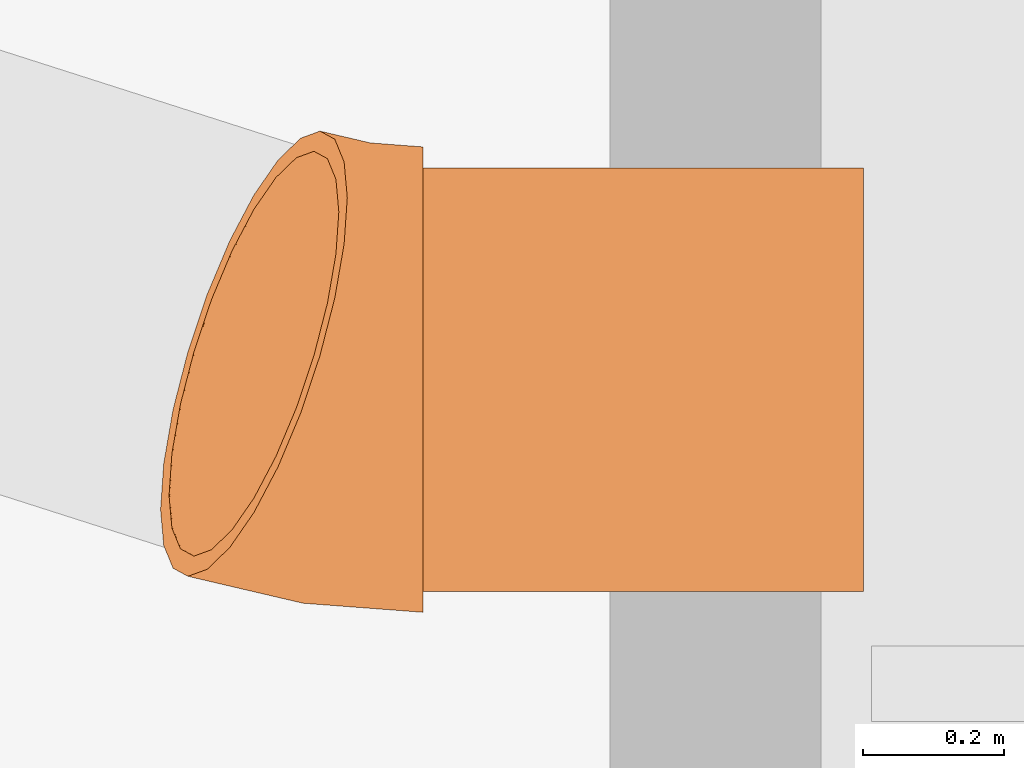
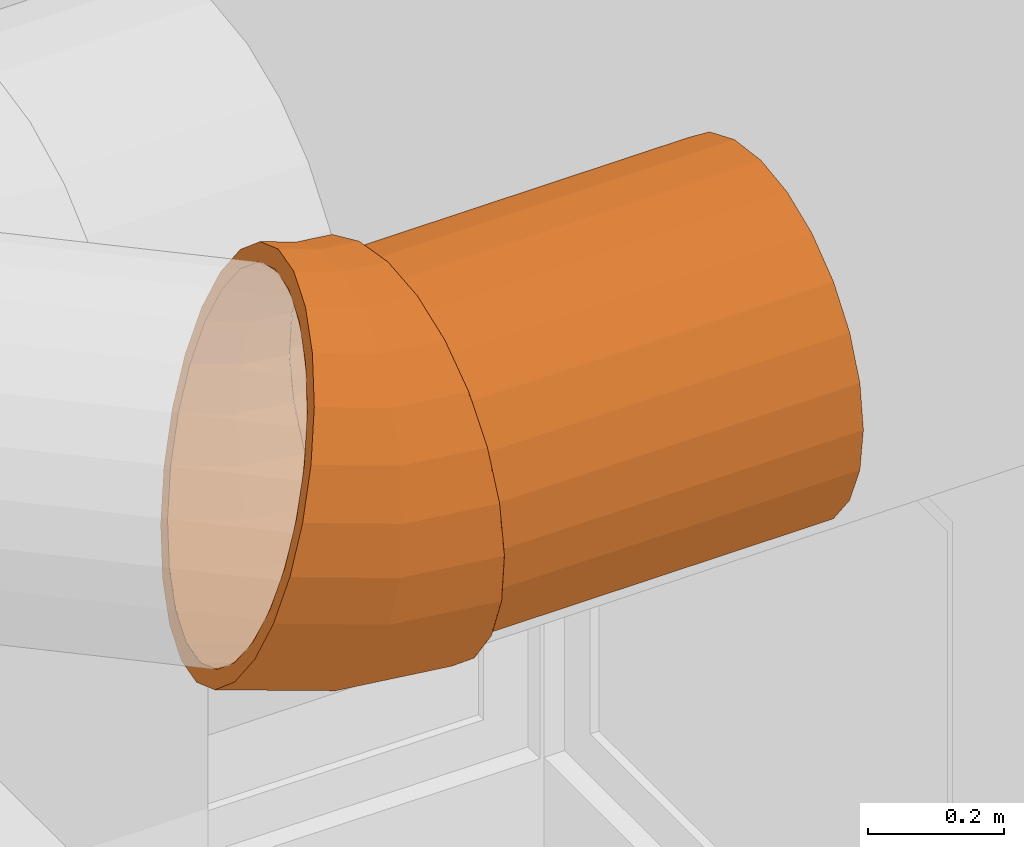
# One storey, part 293 of 301: 2 proxies.
"""IFC2X3 building model written with IfcOpenShell, lengths in millimetres."""

from ifc_helpers import new_model, entity, si_unit, converted_unit, derived_unit, money_unit, direction, frame, origin_with_axes, place, context, subcontext, project, spatial, open_shell, faceted_brep, surface_model, type_object, element, save


model = new_model("IFC2X3")

# Units and contexts
model_context = context("Model", 3, precision=0.01, world=origin_with_axes(), true_north=direction((0.0, 1.0)))
body_context = subcontext(model_context, "Body", "Model", "MODEL_VIEW")
ifc_project = project(units=[si_unit("LENGTHUNIT", "METRE", prefix="MILLI"), si_unit("AREAUNIT", "SQUARE_METRE"), si_unit("VOLUMEUNIT", "CUBIC_METRE"), converted_unit("PLANEANGLEUNIT", "DEGREE", entity("IfcPlaneAngleMeasure", 0.0174532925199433), si_unit("PLANEANGLEUNIT", "RADIAN"), dimensions=[0, 0, 0, 0, 0, 0, 0]), money_unit("EUR"), converted_unit("TIMEUNIT", "Year", entity("IfcTimeMeasure", 31557600.0), si_unit("TIMEUNIT", "SECOND"), dimensions=[0, 0, 1, 0, 0, 0, 0]), si_unit("MASSUNIT", "GRAM", prefix="KILO"), si_unit("THERMODYNAMICTEMPERATUREUNIT", "DEGREE_CELSIUS"), si_unit("LUMINOUSINTENSITYUNIT", "LUMEN"), si_unit("ENERGYUNIT", "JOULE", prefix="MEGA"), derived_unit("THERMALCONDUCTANCEUNIT", [(si_unit("POWERUNIT", "WATT"), 1), (si_unit("LENGTHUNIT", "METRE"), -1), (si_unit("THERMODYNAMICTEMPERATUREUNIT", "KELVIN"), -1)]), derived_unit("SPECIFICHEATCAPACITYUNIT", [(si_unit("ENERGYUNIT", "JOULE"), 1), (si_unit("MASSUNIT", "GRAM", prefix="KILO"), -1), (si_unit("THERMODYNAMICTEMPERATUREUNIT", "KELVIN"), -1)]), derived_unit("MASSDENSITYUNIT", [(si_unit("MASSUNIT", "GRAM", prefix="KILO"), 1), (si_unit("VOLUMEUNIT", "CUBIC_METRE"), -1)])], contexts=[model_context])

# Site, building, storey
site_placement = place(None, frame((0.0, 0.0, 8650.0), z_axis=(0.0, 0.0, 1.0), x_axis=(1.0, 0.0, 0.0)))
site = spatial("IfcSite", under=ifc_project, at=site_placement, Name="43301:001:0844", CompositionType="ELEMENT")
building_placement = place(site_placement, origin_with_axes())
building = spatial("IfcBuilding", under=site, at=building_placement, Name="Kuressaare Ametikooli tuulikute mehaanikute õppekorpus", CompositionType="ELEMENT")
storey_placement = place(building_placement, origin_with_axes())
storey = spatial("IfcBuildingStorey", under=building, at=storey_placement, Name="1.korrus", CompositionType="ELEMENT", Elevation=0.0)

# Proxies
building_element_proxy_type = type_object("IfcBuildingElementProxyType", Name="IfcBuildingElementProxy", PredefinedType="NOTDEFINED")
proxy_1_placement = place(storey_placement, frame((87632.88421849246, 47523.47946166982, 5167.550563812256), z_axis=(1.0, 0.0, 0.0), x_axis=(0.0, 1.0, 0.0)))
element("IfcBuildingElementProxy", 1, at=proxy_1_placement, inside=storey, type_object=building_element_proxy_type, context=body_context, shape_type="SurfaceModel", body=[
    surface_model("IfcShellBasedSurfaceModel", [(0.0, -301.0000000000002, 0.0), (77.90453257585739, -290.7436737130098, 0.0), (77.90453257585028, -290.7436737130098, 625.8722283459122), (0.0, -301.0000000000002, 625.8722283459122), (150.500000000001, -260.6736465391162, 0.0), (150.4999999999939, -260.6736465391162, 625.8722283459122), (-77.90453257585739, -290.7436737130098, 0.0), (-77.9045325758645, -290.7436737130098, 625.8722283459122), (212.8391411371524, -212.8391411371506, 0.0), (212.8391411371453, -212.8391411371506, 625.8722283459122), (-150.500000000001, -260.6736465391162, 0.0), (-150.5000000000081, -260.6736465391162, 625.8722283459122), (260.673646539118, -150.5000000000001, 0.0), (260.6736465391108, -150.5000000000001, 625.8722283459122), (-212.8391411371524, -212.8391411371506, 0.0), (-212.8391411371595, -212.8391411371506, 625.8722283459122), (290.7436737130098, -77.90453257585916, 0.0), (290.7436737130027, -77.90453257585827, 625.8722283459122), (-260.673646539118, -150.5000000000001, 0.0), (-260.6736465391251, -150.5000000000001, 625.8722283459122), (301.0000000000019, 0.0, 0.0), (300.9999999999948, 0.0, 625.8722283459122), (-290.7436737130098, -77.90453257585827, 0.0), (-290.7436737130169, -77.90453257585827, 625.8722283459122), (290.7436737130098, 77.90453257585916, 0.0), (290.7436737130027, 77.90453257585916, 625.8722283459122), (-301.0000000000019, 0.0, 0.0), (-301.000000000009, 0.0, 625.8722283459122), (260.673646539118, 150.5000000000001, 0.0), (260.6736465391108, 150.5000000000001, 625.8722283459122), (-290.7436737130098, 77.90453257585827, 0.0), (-290.7436737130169, 77.90453257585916, 625.8722283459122), (212.8391411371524, 212.8391411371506, 0.0), (212.8391411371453, 212.8391411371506, 625.8722283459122), (-260.673646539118, 150.5000000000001, 0.0), (-260.6736465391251, 150.5000000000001, 625.8722283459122), (150.500000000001, 260.6736465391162, 0.0), (150.4999999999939, 260.6736465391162, 625.8722283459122), (-212.8391411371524, 212.8391411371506, 0.0), (-212.8391411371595, 212.8391411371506, 625.8722283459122), (77.90453257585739, 290.7436737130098, 0.0), (77.90453257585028, 290.7436737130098, 625.8722283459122), (-150.500000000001, 260.6736465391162, 0.0), (-150.5000000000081, 260.6736465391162, 625.8722283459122), (0.0, 301.0000000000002, 0.0), (0.0, 301.0000000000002, 625.8722283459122), (-77.90453257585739, 290.7436737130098, 0.0), (-77.9045325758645, 290.7436737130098, 625.8722283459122)], [open_shell([[[0, 1, 2, 3]], [[1, 4, 5, 2]], [[6, 0, 3, 7]], [[4, 8, 9, 5]], [[10, 6, 7, 11]], [[8, 12, 13, 9]], [[14, 10, 11, 15]], [[12, 16, 17, 13]], [[18, 14, 15, 19]], [[16, 20, 21, 17]], [[22, 18, 19, 23]], [[20, 24, 25, 21]], [[26, 22, 23, 27]], [[24, 28, 29, 25]], [[30, 26, 27, 31]], [[28, 32, 33, 29]], [[34, 30, 31, 35]], [[32, 36, 37, 33]], [[38, 34, 35, 39]], [[36, 40, 41, 37]], [[42, 38, 39, 43]], [[40, 44, 45, 41]], [[46, 42, 43, 47]], [[44, 46, 47, 45]]])]),
])
proxy_2_placement = place(storey_placement, frame((87392.30670792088, 47560.29862101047, 5201.884217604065), z_axis=(1.0, 0.0, 0.0), x_axis=(0.0, 1.0, 0.0)))
element("IfcBuildingElementProxy", 2, at=proxy_2_placement, inside=storey, type_object=building_element_proxy_type, context=body_context, shape_type="SurfaceModel", body=[
    surface_model("IfcShellBasedSurfaceModel", [(141.4430850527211, 238.4147601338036, 117.5349131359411), (127.4846175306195, 225.3985696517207, 177.2344689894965), (187.9567943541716, 175.2686270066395, 179.3352082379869), (201.4449110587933, 187.8462180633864, 121.647315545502), (71.78688828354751, 272.7215020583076, 105.4779593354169), (56.44942193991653, 258.4194031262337, 171.0754131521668), (122.7650887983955, 220.9976363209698, 239.5775105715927), (183.3962969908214, 171.0159895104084, 239.5775105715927), (233.7448734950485, 111.4458479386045, 177.2344689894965), (247.7033410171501, 124.4620384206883, 117.5349131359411), (-2.776724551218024, 288.4284960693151, 86.29811562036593), (-20.30786122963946, 272.0808121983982, 161.2777702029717), (51.26363682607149, 253.5836884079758, 239.5775105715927), (229.0253447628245, 107.0449146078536, 239.5775105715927), (261.728473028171, 38.27964936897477, 171.0754131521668), (277.065939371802, 52.58174830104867, 105.4779593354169), (-77.16636645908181, 284.4653364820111, 61.3024566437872), (-97.55634997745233, 265.4517944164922, 148.5092333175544), (-26.23535313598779, 266.5534601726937, 239.5775105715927), (256.542687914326, 33.44393465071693, 239.5775105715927), (270.0005568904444, -39.24381318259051, 161.2777702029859), (287.531693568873, -22.89612931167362, 86.29811562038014), (-146.3125062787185, 261.1021060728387, 32.19439525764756), (-170.0316874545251, 238.9841063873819, 133.6399571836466), (-104.4504529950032, 259.0230831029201, 239.5775105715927), (264.0730649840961, -44.77116520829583, 239.5775105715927), (257.9973962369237, -115.8414438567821, 148.5092333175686), (278.3873797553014, -96.82790179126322, 61.30245664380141), (-205.5029488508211, 219.9309703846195, 0.9575977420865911), (-232.7947991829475, 194.4814773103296, 117.6832583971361), (-178.0514329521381, 231.5057399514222, 239.5775105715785), (251.10329321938, -122.2701551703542, 239.5775105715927), (226.5369866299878, -186.2932407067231, 133.6399571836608), (250.2561678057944, -164.1752410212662, 32.19439525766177), (-250.7039633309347, 163.7576742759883, -30.27919977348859), (-281.568482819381, 134.9766878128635, 101.7265596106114), (-242.022507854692, 185.8766921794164, 239.5775105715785), (218.5172411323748, -193.7716071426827, 239.5775105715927), (177.7633029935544, -245.7980302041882, 117.6832583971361), (205.0551533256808, -220.3485371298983, 0.9575977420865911), (-278.8351752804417, 96.41033504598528, -59.38726115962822), (-313.028892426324, 64.52489096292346, 86.85728347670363), (-292.0041546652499, 125.2454839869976, 239.5775105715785), (168.535594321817, -254.4028153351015, 239.5775105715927), (115.0001912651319, -290.3006592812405, 101.7265596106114), (145.8647107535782, -261.5196728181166, -30.27919977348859), (-287.9794890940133, 22.47856256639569, -84.38292013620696), (-325.0320530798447, -12.0727397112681, 74.08874659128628), (-324.590206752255, 53.74403201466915, 239.5775105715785), (104.564519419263, -300.0318631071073, 239.5775105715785), (42.52485378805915, -316.7683473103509, 86.85728347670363), (76.71857093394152, -284.882903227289, -59.38726115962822), (-277.5137348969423, -52.9993150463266, -103.562763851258), (-316.7599692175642, -89.59620226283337, 64.29110364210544), (-337.5599785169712, -23.75495794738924, 239.5775105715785), (30.96353946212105, -327.5492062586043, 239.5775105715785), (-34.72363495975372, -323.3973650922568, 74.08874659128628), (2.328929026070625, -288.846062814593, -84.38292013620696), (-248.1511365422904, -124.8796051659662, -115.6197176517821), (-288.7763696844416, -162.762400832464, 58.13204780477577), (-330.0296014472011, -101.9700578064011, 239.5775105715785), (-47.25156039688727, -335.0795833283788, 239.5775105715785), (-111.4809181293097, -309.7359560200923, 64.29110364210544), (-72.23468380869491, -273.1390688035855, -103.562763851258), (-201.8927065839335, -188.2637848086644, -119.732120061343), (-242.9882905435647, -226.5851799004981, 56.03130855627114), (-302.5122582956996, -175.5710377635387, 239.5775105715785), (-124.7505503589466, -322.1098115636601, 239.5775105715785), (-182.5161137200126, -276.7151225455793, 58.13204780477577), (-141.8908805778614, -238.8323268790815, -115.6197176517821), (-256.8832105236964, -239.5421126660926, 239.5775105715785), (-196.2520023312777, -289.523759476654, 239.5775105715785)], [open_shell([[[0, 1, 2, 3]], [[4, 5, 1, 0]], [[2, 1, 6, 7]], [[3, 2, 8, 9]], [[10, 11, 5, 4]], [[1, 5, 12, 6]], [[8, 2, 7, 13]], [[9, 8, 14, 15]], [[16, 17, 11, 10]], [[5, 11, 18, 12]], [[14, 8, 13, 19]], [[15, 14, 20, 21]], [[22, 23, 17, 16]], [[11, 17, 24, 18]], [[20, 14, 19, 25]], [[21, 20, 26, 27]], [[28, 29, 23, 22]], [[17, 23, 30, 24]], [[26, 20, 25, 31]], [[27, 26, 32, 33]], [[34, 35, 29, 28]], [[23, 29, 36, 30]], [[32, 26, 31, 37]], [[33, 32, 38, 39]], [[40, 41, 35, 34]], [[29, 35, 42, 36]], [[38, 32, 37, 43]], [[39, 38, 44, 45]], [[46, 47, 41, 40]], [[35, 41, 48, 42]], [[44, 38, 43, 49]], [[45, 44, 50, 51]], [[52, 53, 47, 46]], [[41, 47, 54, 48]], [[50, 44, 49, 55]], [[51, 50, 56, 57]], [[58, 59, 53, 52]], [[47, 53, 60, 54]], [[56, 50, 55, 61]], [[57, 56, 62, 63]], [[64, 65, 59, 58]], [[53, 59, 66, 60]], [[62, 56, 61, 67]], [[63, 62, 68, 69]], [[69, 68, 65, 64]], [[59, 65, 70, 66]], [[68, 62, 67, 71]], [[65, 68, 71, 70]]])]),
    faceted_brep([(225.738757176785, -242.0805930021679, 0.0), (275.4448561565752, -180.3086295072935, 34.35009959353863), (275.1516076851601, -180.5820820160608, 35.26619405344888), (225.4455087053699, -242.3540455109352, 0.916094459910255), (160.6489349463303, -287.3551641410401, -34.35009959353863), (84.61115328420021, -313.0469557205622, -66.35929666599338), (2.807261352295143, -317.4051146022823, -93.84621733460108), (-79.18794080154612, -300.1326394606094, -114.9376733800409), (-155.78661565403, -262.4066209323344, -128.1963169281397), (-221.7686900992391, -206.7980248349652, -132.718593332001), (-272.637594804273, -137.0964850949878, -128.1963169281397), (-304.9266979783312, -58.05204645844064, -114.9376733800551), (-316.4355506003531, 24.94854320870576, -93.84621733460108), (-306.3798433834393, 106.2489308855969, -66.3592966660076), (-275.4448561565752, 180.3086295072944, -34.35009959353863), (-225.738757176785, 242.0805930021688, 0.0), (-160.6489349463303, 287.3551641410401, 34.35009959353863), (-84.61115328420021, 313.0469557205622, 66.35929666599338), (-2.807261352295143, 317.4051146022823, 93.84621733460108), (79.18794080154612, 300.1326394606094, 114.9376733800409), (155.7866156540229, 262.4066209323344, 128.1963169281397), (221.7686900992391, 206.7980248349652, 132.718593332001), (272.637594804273, 137.0964850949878, 128.1963169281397), (304.9266979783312, 58.05204645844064, 114.9376733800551), (316.4355506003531, -24.94854320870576, 93.84621733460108), (306.3798433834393, -106.2489308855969, 66.3592966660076), (205.2790510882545, -220.1397537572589, 0.0), (250.480065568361, -163.9664576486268, 31.23679751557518), (278.611277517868, -96.6191184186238, 60.34485890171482), (287.7555913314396, -22.6873459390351, 85.34051787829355), (277.2898371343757, 52.79053167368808, 104.5203615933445), (247.9272387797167, 124.6708217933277, 116.5773153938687), (201.6688088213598, 188.0550014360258, 120.6897178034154), (141.6669828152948, 238.623543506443, 116.5773153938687), (72.01078604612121, 272.930285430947, 104.5203615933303), (-2.552826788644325, 288.6372794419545, 85.34051787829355), (-76.94246869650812, 284.6741198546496, 60.34485890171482), (-146.0886085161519, 261.3108894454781, 31.23679751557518), (-205.2790510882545, 220.1397537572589, 0.0), (-250.480065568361, 163.9664576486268, -31.23679751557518), (-278.611277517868, 96.6191184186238, -60.34485890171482), (-287.7555913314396, 22.6873459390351, -85.34051787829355), (-277.2898371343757, -52.79053167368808, -104.5203615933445), (-247.9272387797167, -124.6708217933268, -116.5773153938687), (-201.6688088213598, -188.0550014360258, -120.6897178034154), (-141.6669828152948, -238.623543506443, -116.5773153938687), (-72.01078604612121, -272.930285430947, -104.5203615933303), (2.552826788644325, -288.6372794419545, -85.34051787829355), (76.94246869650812, -284.6741198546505, -60.34485890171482), (146.0886085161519, -261.3108894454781, -31.23679751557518), (306.0865949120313, -106.5223833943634, 67.27539112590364), (316.1423021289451, -25.22199571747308, 94.76231179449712), (304.6334495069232, 57.77859394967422, 115.8537678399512), (272.344346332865, 136.8230325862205, 129.1124113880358), (221.4754416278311, 206.5245723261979, 133.634687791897), (155.4933671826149, 262.133168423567, 129.1124113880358), (78.89469233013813, 299.8591869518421, 115.8537678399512), (-3.10050982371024, 317.1316620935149, 94.76231179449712), (-84.90440175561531, 312.7735032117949, 67.27539112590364), (-160.9421834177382, 287.0817116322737, 35.26619405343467), (-226.032005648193, 241.8071404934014, 0.9160944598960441), (-275.7381046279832, 180.0351769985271, -33.43400513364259), (-306.6730918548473, 105.9754783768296, -65.44320220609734), (-316.7287990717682, 24.67509069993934, -92.93012287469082), (-305.2199464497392, -58.32549896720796, -114.0215789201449), (-272.9308432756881, -137.3699376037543, -127.2802224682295), (-222.061938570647, -207.0714773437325, -131.8024988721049), (-156.079864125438, -262.6800734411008, -127.2802224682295), (-79.48118927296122, -300.4060919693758, -114.0215789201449), (2.514012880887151, -317.6785671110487, -92.93012287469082), (84.31790481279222, -313.3204082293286, -65.44320220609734), (160.3556864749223, -287.6286166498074, -33.43400513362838), (204.9858026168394, -220.4132062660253, 0.916094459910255), (145.7953600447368, -261.5843419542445, -30.32070305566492), (76.64922022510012, -284.947572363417, -59.42876444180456), (2.259578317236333, -288.9107319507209, -84.4244234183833), (-72.3040345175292, -273.2037379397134, -103.6042671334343), (-141.9602312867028, -238.8969960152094, -115.6612209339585), (-201.9620572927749, -188.3284539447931, -119.7736233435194), (-248.2204872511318, -124.9442743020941, -115.6612209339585), (-277.5830856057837, -53.0639841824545, -103.6042671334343), (-288.0488398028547, 22.41389343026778, -84.4244234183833), (-278.9045259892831, 96.34566590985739, -59.42876444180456), (-250.7733140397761, 163.6930051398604, -30.32070305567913), (-205.5722995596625, 219.8663012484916, 0.9160944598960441), (-146.3818569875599, 261.0374369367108, 32.15289197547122), (-77.23571716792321, 284.4006673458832, 61.26095336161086), (-2.846075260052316, 288.3638269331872, 86.2566123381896), (71.71753757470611, 272.6568329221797, 105.4364560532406), (141.3737343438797, 238.3500909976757, 117.4934098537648), (201.3755603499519, 187.7815489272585, 121.6058122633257), (247.6339903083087, 124.3973692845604, 117.4934098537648), (276.9965886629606, 52.51707916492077, 105.4364560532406), (287.4623428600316, -22.96079844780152, 86.2566123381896), (278.31802904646, -96.89257092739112, 61.26095336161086), (250.186817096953, -164.2399101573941, 32.15289197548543)], [[[0, 1, 2, 3]], [[0, 4, 5, 6, 7, 8, 9, 10, 11, 12, 13, 14, 15, 16, 17, 18, 19, 20, 21, 22, 23, 24, 25, 1], [26, 27, 28, 29, 30, 31, 32, 33, 34, 35, 36, 37, 38, 39, 40, 41, 42, 43, 44, 45, 46, 47, 48, 49]], [[1, 25, 50, 2]], [[3, 2, 50, 51, 52, 53, 54, 55, 56, 57, 58, 59, 60, 61, 62, 63, 64, 65, 66, 67, 68, 69, 70, 71], [72, 73, 74, 75, 76, 77, 78, 79, 80, 81, 82, 83, 84, 85, 86, 87, 88, 89, 90, 91, 92, 93, 94, 95]], [[4, 0, 3, 71]], [[5, 4, 71, 70]], [[6, 5, 70, 69]], [[7, 6, 69, 68]], [[8, 7, 68, 67]], [[9, 8, 67, 66]], [[10, 9, 66, 65]], [[11, 10, 65, 64]], [[12, 11, 64, 63]], [[13, 12, 63, 62]], [[14, 13, 62, 61]], [[15, 14, 61, 60]], [[16, 15, 60, 59]], [[17, 16, 59, 58]], [[18, 17, 58, 57]], [[19, 18, 57, 56]], [[20, 19, 56, 55]], [[21, 20, 55, 54]], [[22, 21, 54, 53]], [[23, 22, 53, 52]], [[24, 23, 52, 51]], [[25, 24, 51, 50]], [[27, 26, 72, 95]], [[28, 27, 95, 94]], [[29, 28, 94, 93]], [[30, 29, 93, 92]], [[31, 30, 92, 91]], [[32, 31, 91, 90]], [[33, 32, 90, 89]], [[34, 33, 89, 88]], [[35, 34, 88, 87]], [[36, 35, 87, 86]], [[37, 36, 86, 85]], [[38, 37, 85, 84]], [[39, 38, 84, 83]], [[40, 39, 83, 82]], [[41, 40, 82, 81]], [[42, 41, 81, 80]], [[43, 42, 80, 79]], [[44, 43, 79, 78]], [[45, 44, 78, 77]], [[46, 45, 77, 76]], [[47, 46, 76, 75]], [[48, 47, 75, 74]], [[49, 48, 74, 73]], [[26, 49, 73, 72]]]),
    faceted_brep([(188.9195978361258, -276.4142467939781, 240.5775105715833), (118.5726682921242, -326.5910401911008, 240.5775105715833), (118.5726682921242, -326.5910401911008, 239.5775105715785), (188.9195978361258, -276.4142467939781, 239.5775105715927), (243.8828041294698, -209.7400610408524, 240.5775105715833), (279.7166354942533, -131.112218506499, 240.5775105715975), (293.9790755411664, -45.88907672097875, 240.5775105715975), (285.6981625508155, 40.12154804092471, 240.5775105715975), (255.4382270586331, 121.0581738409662, 240.5775105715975), (205.2614336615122, 191.4051033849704, 240.5775105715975), (138.5872479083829, 246.3683096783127, 240.5775105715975), (59.95940537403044, 282.2021410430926, 240.5775105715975), (-25.26373641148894, 296.4645810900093, 240.5775105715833), (-111.2743611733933, 288.1836680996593, 240.5775105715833), (-192.2109869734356, 257.9237326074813, 240.5775105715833), (-262.5579165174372, 207.7469392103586, 240.5775105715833), (-317.5211228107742, 141.0727534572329, 240.5775105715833), (-353.3549541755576, 62.44491092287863, 240.5775105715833), (-367.6173942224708, -22.77823086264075, 240.5775105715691), (-359.3364812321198, -108.7888556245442, 240.5775105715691), (-329.0765457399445, -189.7254814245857, 240.5775105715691), (-278.8997523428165, -260.0724109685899, 240.5775105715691), (-212.2255665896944, -315.0356172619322, 240.5775105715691), (-133.5977240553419, -350.869448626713, 240.5775105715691), (-48.3745822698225, -365.1318886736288, 240.5775105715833), (37.63604249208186, -356.8509756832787, 240.5775105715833), (168.4598917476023, -254.4734075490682, 240.5775105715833), (104.4888168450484, -300.102455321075, 240.5775105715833), (30.88783688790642, -327.6197984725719, 240.5775105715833), (-47.3272629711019, -335.1501755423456, 240.5775105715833), (-124.8262529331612, -322.1804037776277, 240.5775105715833), (-196.3277049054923, -289.5943516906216, 240.5775105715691), (-256.9589130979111, -239.6127048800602, 240.5775105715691), (-302.5879608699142, -175.6416299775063, 240.5775105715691), (-330.1053040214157, -102.0406500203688, 240.5775105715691), (-337.6356810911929, -23.8255501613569, 240.5775105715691), (-324.6659093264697, 53.67343980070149, 240.5775105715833), (-292.0798572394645, 125.17489177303, 240.5775105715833), (-242.0982104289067, 185.8060999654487, 240.5775105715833), (-178.1271355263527, 231.4351477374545, 240.5775105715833), (-104.5261555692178, 258.9524908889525, 240.5775105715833), (-26.31105571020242, 266.4828679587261, 240.5775105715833), (51.18793425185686, 253.5130961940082, 240.5775105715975), (122.6893862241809, 220.9270441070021, 240.5775105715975), (183.3205944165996, 170.9453972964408, 240.5775105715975), (228.9496421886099, 106.9743223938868, 240.5775105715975), (256.4669853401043, 33.37334243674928, 240.5775105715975), (263.9973624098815, -44.8417574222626, 240.5775105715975), (251.0275906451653, -122.3407473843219, 240.5775105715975), (218.4415385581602, -193.8421993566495, 240.5775105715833), (37.63604249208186, -356.8509756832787, 239.5775105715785), (-48.3745822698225, -365.1318886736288, 239.5775105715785), (-133.5977240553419, -350.869448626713, 239.5775105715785), (-212.2255665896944, -315.0356172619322, 239.5775105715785), (-278.8997523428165, -260.0724109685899, 239.5775105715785), (-329.0765457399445, -189.7254814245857, 239.5775105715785), (-359.3364812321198, -108.7888556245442, 239.5775105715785), (-367.6173942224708, -22.77823086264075, 239.5775105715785), (-353.3549541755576, 62.44491092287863, 239.5775105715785), (-317.5211228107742, 141.0727534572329, 239.5775105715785), (-262.5579165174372, 207.7469392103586, 239.5775105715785), (-192.2109869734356, 257.9237326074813, 239.5775105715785), (-111.2743611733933, 288.1836680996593, 239.5775105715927), (-25.26373641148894, 296.4645810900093, 239.5775105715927), (59.95940537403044, 282.2021410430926, 239.5775105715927), (138.5872479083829, 246.3683096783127, 239.5775105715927), (205.2614336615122, 191.4051033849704, 239.5775105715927), (255.4382270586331, 121.0581738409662, 239.5775105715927), (285.6981625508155, 40.12154804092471, 239.5775105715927), (293.9790755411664, -45.88907672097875, 239.5775105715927), (279.7166354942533, -131.112218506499, 239.5775105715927), (243.8828041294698, -209.7400610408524, 239.5775105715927), (168.4598917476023, -254.4734075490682, 239.5775105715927), (218.4415385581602, -193.8421993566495, 239.5775105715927), (251.0275906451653, -122.3407473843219, 239.5775105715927), (263.9973624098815, -44.8417574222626, 239.5775105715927), (256.4669853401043, 33.37334243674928, 239.5775105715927), (228.9496421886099, 106.9743223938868, 239.5775105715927), (183.3205944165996, 170.9453972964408, 239.5775105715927), (122.6893862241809, 220.9270441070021, 239.5775105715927), (51.18793425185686, 253.5130961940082, 239.5775105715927), (-26.31105571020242, 266.4828679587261, 239.5775105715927), (-104.5261555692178, 258.9524908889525, 239.5775105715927), (-178.1271355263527, 231.4351477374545, 239.5775105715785), (-242.0982104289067, 185.8060999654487, 239.5775105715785), (-292.0798572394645, 125.17489177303, 239.5775105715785), (-324.6659093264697, 53.67343980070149, 239.5775105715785), (-337.6356810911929, -23.8255501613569, 239.5775105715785), (-330.1053040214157, -102.0406500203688, 239.5775105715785), (-302.5879608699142, -175.6416299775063, 239.5775105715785), (-256.9589130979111, -239.6127048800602, 239.5775105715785), (-196.3277049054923, -289.5943516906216, 239.5775105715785), (-124.8262529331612, -322.1804037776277, 239.5775105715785), (-47.3272629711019, -335.1501755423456, 239.5775105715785), (30.88783688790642, -327.6197984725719, 239.5775105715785), (104.4888168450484, -300.102455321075, 239.5775105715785)], [[[0, 1, 2, 3]], [[0, 4, 5, 6, 7, 8, 9, 10, 11, 12, 13, 14, 15, 16, 17, 18, 19, 20, 21, 22, 23, 24, 25, 1], [26, 27, 28, 29, 30, 31, 32, 33, 34, 35, 36, 37, 38, 39, 40, 41, 42, 43, 44, 45, 46, 47, 48, 49]], [[1, 25, 50, 2]], [[3, 2, 50, 51, 52, 53, 54, 55, 56, 57, 58, 59, 60, 61, 62, 63, 64, 65, 66, 67, 68, 69, 70, 71], [72, 73, 74, 75, 76, 77, 78, 79, 80, 81, 82, 83, 84, 85, 86, 87, 88, 89, 90, 91, 92, 93, 94, 95]], [[4, 0, 3, 71]], [[5, 4, 71, 70]], [[6, 5, 70, 69]], [[7, 6, 69, 68]], [[8, 7, 68, 67]], [[9, 8, 67, 66]], [[10, 9, 66, 65]], [[11, 10, 65, 64]], [[12, 11, 64, 63]], [[13, 12, 63, 62]], [[14, 13, 62, 61]], [[15, 14, 61, 60]], [[16, 15, 60, 59]], [[17, 16, 59, 58]], [[18, 17, 58, 57]], [[19, 18, 57, 56]], [[20, 19, 56, 55]], [[21, 20, 55, 54]], [[22, 21, 54, 53]], [[23, 22, 53, 52]], [[24, 23, 52, 51]], [[25, 24, 51, 50]], [[27, 26, 72, 95]], [[28, 27, 95, 94]], [[29, 28, 94, 93]], [[30, 29, 93, 92]], [[31, 30, 92, 91]], [[32, 31, 91, 90]], [[33, 32, 90, 89]], [[34, 33, 89, 88]], [[35, 34, 88, 87]], [[36, 35, 87, 86]], [[37, 36, 86, 85]], [[38, 37, 85, 84]], [[39, 38, 84, 83]], [[40, 39, 83, 82]], [[41, 40, 82, 81]], [[42, 41, 81, 80]], [[43, 42, 80, 79]], [[44, 43, 79, 78]], [[45, 44, 78, 77]], [[46, 45, 77, 76]], [[47, 46, 76, 75]], [[48, 47, 75, 74]], [[49, 48, 74, 73]], [[26, 49, 73, 72]]]),
    surface_model("IfcShellBasedSurfaceModel", [(221.7686900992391, 206.7980248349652, 132.718593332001), (155.7866156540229, 262.4066209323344, 128.1963169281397), (142.9331589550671, 250.4208466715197, 183.1698055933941), (209.4324630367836, 195.2945642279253, 185.4799208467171), (79.18794080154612, 300.1326394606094, 114.9376733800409), (64.81804353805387, 286.7327931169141, 176.3968903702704), (138.5872479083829, 246.3683096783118, 240.5775105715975), (205.2614336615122, 191.4051033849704, 240.5775105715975), (272.637594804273, 137.0964850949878, 128.1963169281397), (259.7841381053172, 125.1107108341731, 183.1698055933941), (-2.807261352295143, 317.4051146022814, 93.84621733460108), (-19.58946718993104, 301.7558044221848, 165.6227381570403), (59.95940537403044, 282.2021410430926, 240.5775105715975), (255.4382270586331, 121.0581738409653, 240.5775105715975), (304.9266979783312, 58.05204645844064, 114.9376733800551), (290.5568007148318, 44.65220011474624, 176.3968903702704), (-84.61115328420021, 313.0469557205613, 66.35929666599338), (-104.5371408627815, 294.4660871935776, 151.5815896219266), (-25.26373641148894, 296.4645810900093, 240.5775105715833), (285.6981625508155, 40.12154804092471, 240.5775105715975), (316.4355506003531, -24.94854320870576, 93.84621733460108), (299.6533447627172, -40.59785338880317, 165.6227381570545), (-160.6489349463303, 287.3551641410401, 34.35009959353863), (-184.2359339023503, 265.3604236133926, 135.2303258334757), (-111.2743611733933, 288.1836680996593, 240.5775105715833), (293.9790755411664, -45.88907672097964, 240.5775105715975), (306.3798433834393, -106.2489308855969, 66.3592966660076), (286.453855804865, -124.8297994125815, 151.5815896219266), (-225.738757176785, 242.0805930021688, 0.0), (-253.2545052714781, 216.4223165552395, 117.6832583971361), (-192.2109869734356, 257.9237326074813, 240.5775105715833), (279.7166354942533, -131.112218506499, 240.5775105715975), (275.4448561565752, -180.3086295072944, 34.35009959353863), (251.8578572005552, -202.303370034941, 135.2303258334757), (-275.4448561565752, 180.3086295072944, -34.35009959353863), (-306.8893533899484, 150.9868171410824, 100.1361909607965), (-262.5579165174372, 207.7469392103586, 240.5775105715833), (243.8828041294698, -209.7400610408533, 240.5775105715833), (225.738757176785, -242.0805930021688, 0.0), (198.2230090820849, -267.7388694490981, 117.6832583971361), (-306.3798433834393, 106.2489308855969, -66.3592966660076), (-341.4853519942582, 73.51324651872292, 83.78492717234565), (-317.5211228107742, 141.0727534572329, 240.5775105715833), (188.9195978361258, -276.4142467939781, 240.5775105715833), (160.6489349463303, -287.3551641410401, -34.35009959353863), (129.20443771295, -316.6769765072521, 100.1361909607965), (-316.4355506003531, 24.94854320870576, -93.84621733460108), (-354.6848409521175, -10.71869950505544, 69.7437786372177), (-353.3549541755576, 62.44491092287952, 240.5775105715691), (118.5726682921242, -326.5910401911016, 240.5775105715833), (84.61115328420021, -313.0469557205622, -66.35929666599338), (49.50564467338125, -345.7826400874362, 83.78492717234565), (-304.9266979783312, -58.05204645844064, -114.9376733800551), (-345.5882969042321, -95.96875300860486, 58.96962642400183), (-367.6173942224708, -22.77823086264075, 240.5775105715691), (37.63604249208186, -356.8509756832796, 240.5775105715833), (2.807261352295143, -317.4051146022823, -93.84621733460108), (-35.44202899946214, -353.0723573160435, 69.7437786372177), (-272.637594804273, -137.0964850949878, -128.1963169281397), (-314.8156342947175, -176.4272637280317, 52.1967112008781), (-359.3364812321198, -108.7888556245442, 240.5775105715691), (-48.3745822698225, -365.1318886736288, 240.5775105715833), (-79.18794080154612, -300.1326394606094, -114.9376733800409), (-119.8495397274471, -338.0493460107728, 58.96962642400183), (-221.7686900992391, -206.7980248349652, -132.718593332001), (-264.4639592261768, -246.611117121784, 49.88659594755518), (-329.0765457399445, -189.7254814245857, 240.5775105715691), (-133.5977240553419, -350.869448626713, 240.5775105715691), (-155.78661565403, -262.4066209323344, -128.1963169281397), (-197.9646551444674, -301.7373995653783, 52.1967112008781), (-278.8997523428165, -260.0724109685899, 240.5775105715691), (-212.2255665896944, -315.0356172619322, 240.5775105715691)], [open_shell([[[0, 1, 2, 3]], [[1, 4, 5, 2]], [[3, 2, 6, 7]], [[8, 0, 3, 9]], [[4, 10, 11, 5]], [[2, 5, 12, 6]], [[9, 3, 7, 13]], [[14, 8, 9, 15]], [[10, 16, 17, 11]], [[5, 11, 18, 12]], [[15, 9, 13, 19]], [[20, 14, 15, 21]], [[16, 22, 23, 17]], [[11, 17, 24, 18]], [[21, 15, 19, 25]], [[26, 20, 21, 27]], [[22, 28, 29, 23]], [[17, 23, 30, 24]], [[27, 21, 25, 31]], [[32, 26, 27, 33]], [[28, 34, 35, 29]], [[23, 29, 36, 30]], [[33, 27, 31, 37]], [[38, 32, 33, 39]], [[34, 40, 41, 35]], [[29, 35, 42, 36]], [[39, 33, 37, 43]], [[44, 38, 39, 45]], [[40, 46, 47, 41]], [[35, 41, 48, 42]], [[45, 39, 43, 49]], [[50, 44, 45, 51]], [[46, 52, 53, 47]], [[41, 47, 54, 48]], [[51, 45, 49, 55]], [[56, 50, 51, 57]], [[52, 58, 59, 53]], [[47, 53, 60, 54]], [[57, 51, 55, 61]], [[62, 56, 57, 63]], [[58, 64, 65, 59]], [[53, 59, 66, 60]], [[63, 57, 61, 67]], [[68, 62, 63, 69]], [[64, 68, 69, 65]], [[59, 65, 70, 66]], [[69, 63, 67, 71]], [[65, 69, 71, 70]]])]),
])

save(model, "model.ifc")
